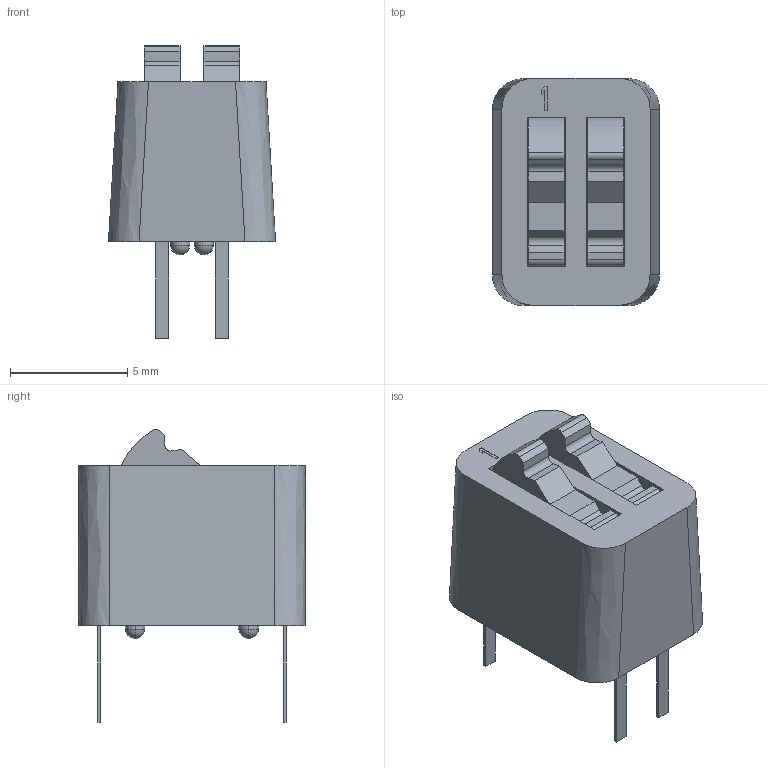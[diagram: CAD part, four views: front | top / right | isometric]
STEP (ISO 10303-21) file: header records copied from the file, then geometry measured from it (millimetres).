
FILE_DESCRIPTION((''),'2;1');
FILE_NAME('C-5435166-29-3','2007-09-05T',('workeradm'),('Tyco Electronics Corporation'),'PRO/ENGINEER BY PARAMETRIC TECHNOLOGY CORPORATION, 2005450','PRO/ENGINEER BY PARAMETRIC TECHNOLOGY CORPORATION, 2005450','');
FILE_SCHEMA(('CONFIG_CONTROL_DESIGN', 'GEOMETRIC_VALIDATION_PROPERTIES_MIM'));
Length unit declared in the file: millimetre
Products named in the file (1): C-5435166-29-3
Bounding box: 7.11 x 9.65 x 12.46 mm (x, y, z)
Volume: 438.8 mm3; surface area: 410.7 mm2
Topology: 1 solids, 1 shells, 98 faces, 259 edges, 166 vertices
Faces by surface type: plane 66, cylinder 20, sphere 8, bspline 4
Entity records: 3184 total; most frequent: CARTESIAN_POINT 624, ORIENTED_EDGE 502, DIRECTION 495, EDGE_CURVE 251, VECTOR 195, LINE 195, VERTEX_POINT 166, AXIS2_PLACEMENT_3D 150
